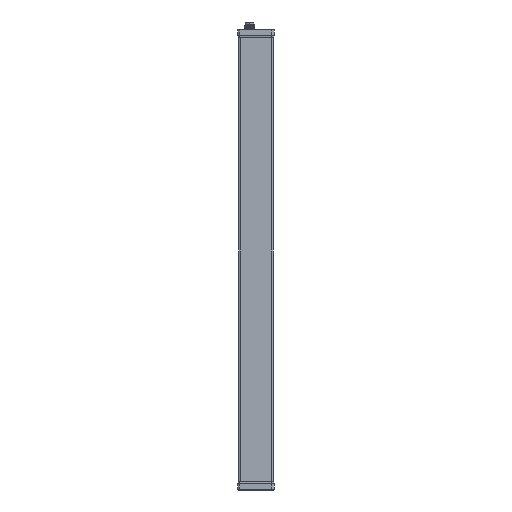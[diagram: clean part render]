
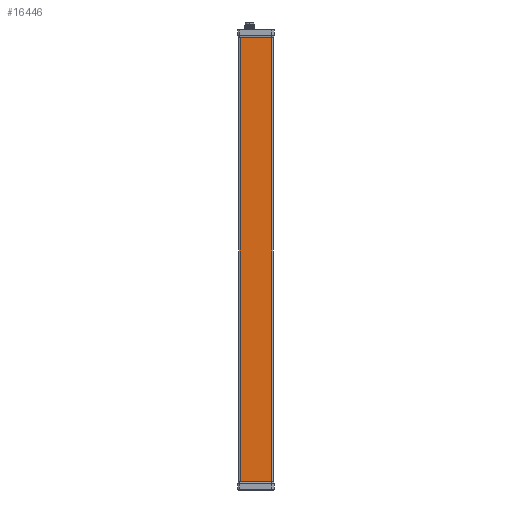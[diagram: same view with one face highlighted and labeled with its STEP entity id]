
A CAD part, left-side view. The second image highlights one B-rep face of the part: STEP entity #16446.
In plain terms, the highlighted planar face has unit normal (-1, 0, 0).
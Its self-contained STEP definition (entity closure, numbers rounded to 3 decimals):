
#13657 = DIRECTION ( 'NONE',  ( 0., 1., 0. ) ) ;
#13659 = VECTOR ( 'NONE', #13657, 1000. ) ;
#13661 = CARTESIAN_POINT ( 'NONE',  ( -44.402, -44.986, -429. ) ) ;
#13663 = LINE ( 'NONE', #13661, #13659 ) ;
#15399 = VERTEX_POINT ( 'NONE', #21375 ) ;
#15401 = EDGE_CURVE ( 'NONE', #15402, #15399, #21376, .T. ) ;
#15402 = VERTEX_POINT ( 'NONE', #21377 ) ;
#16103 = EDGE_CURVE ( 'NONE', #16107, #15399, #13663, .T. ) ;
#16107 = VERTEX_POINT ( 'NONE', #16640 ) ;
#16137 = ORIENTED_EDGE ( 'NONE', *, *, #16139, .T. ) ;
#16139 = EDGE_CURVE ( 'NONE', #16107, #16453, #22128, .T. ) ;
#16203 = ORIENTED_EDGE ( 'NONE', *, *, #16205, .F. ) ;
#16205 = EDGE_CURVE ( 'NONE', #15402, #16453, #22883, .T. ) ;
#16207 = ORIENTED_EDGE ( 'NONE', *, *, #15401, .T. ) ;
#16209 = ORIENTED_EDGE ( 'NONE', *, *, #16103, .F. ) ;
#16446 = ADVANCED_FACE ( 'NONE', ( #25779 ), #31521, .T. ) ;
#16449 = EDGE_LOOP ( 'NONE', ( #16203, #16207, #16209, #16137 ) ) ;
#16453 = VERTEX_POINT ( 'NONE', #31525 ) ;
#16640 = CARTESIAN_POINT ( 'NONE',  ( -44.402, -12.274, -429. ) ) ;
#21375 = CARTESIAN_POINT ( 'NONE',  ( -44.402, 28.726, -429. ) ) ;
#21376 = LINE ( 'NONE', #21380, #21379 ) ;
#21377 = CARTESIAN_POINT ( 'NONE',  ( -44.402, 28.726, 145. ) ) ;
#21378 = DIRECTION ( 'NONE',  ( 0., 0., -1. ) ) ;
#21379 = VECTOR ( 'NONE', #21378, 1000. ) ;
#21380 = CARTESIAN_POINT ( 'NONE',  ( -44.402, 28.726, 147. ) ) ;
#22060 = DIRECTION ( 'NONE',  ( 0., 0., 1. ) ) ;
#22126 = VECTOR ( 'NONE', #22060, 1000. ) ;
#22127 = CARTESIAN_POINT ( 'NONE',  ( -44.402, -12.274, 147. ) ) ;
#22128 = LINE ( 'NONE', #22127, #22126 ) ;
#22880 = DIRECTION ( 'NONE',  ( 0., -1., 0. ) ) ;
#22881 = VECTOR ( 'NONE', #22880, 1000. ) ;
#22882 = CARTESIAN_POINT ( 'NONE',  ( -44.402, -44.986, 145. ) ) ;
#22883 = LINE ( 'NONE', #22882, #22881 ) ;
#25779 = FACE_OUTER_BOUND ( 'NONE', #16449, .T. ) ;
#31519 = CARTESIAN_POINT ( 'NONE',  ( -44.402, -44.986, 147. ) ) ;
#31520 = AXIS2_PLACEMENT_3D ( 'NONE', #31519, #31527, #31526 ) ;
#31521 = PLANE ( 'NONE',  #31520 ) ;
#31525 = CARTESIAN_POINT ( 'NONE',  ( -44.402, -12.274, 145. ) ) ;
#31526 = DIRECTION ( 'NONE',  ( 0., -1., 0. ) ) ;
#31527 = DIRECTION ( 'NONE',  ( -1., 0., 0. ) ) ;
